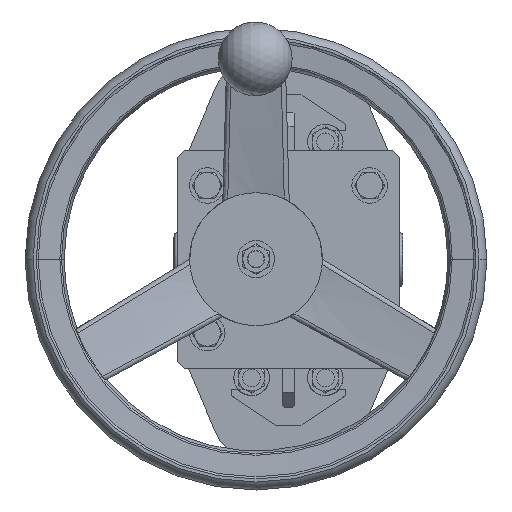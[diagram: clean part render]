
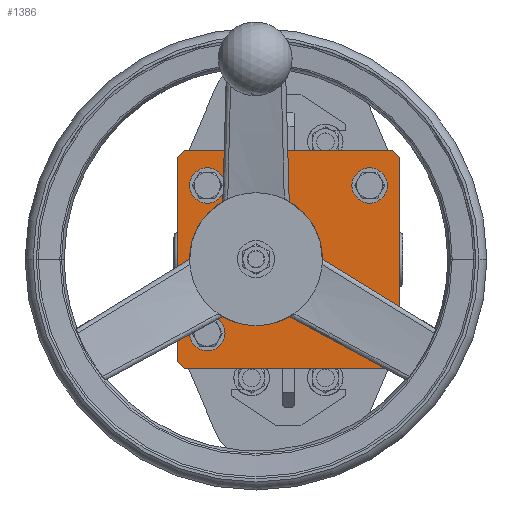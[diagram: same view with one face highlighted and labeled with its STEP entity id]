
A CAD part, top view. The second image highlights one B-rep face of the part: STEP entity #1386.
In plain terms, the highlighted planar face has unit normal (0, 0, 1).
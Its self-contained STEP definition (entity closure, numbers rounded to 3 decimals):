
#1386=ADVANCED_FACE('',(#3273,#3274,#3275,#3276,#3277,#3278),#3279,.T.);
#3273=FACE_BOUND('',#10066,.T.);
#3274=FACE_BOUND('',#10067,.T.);
#3275=FACE_OUTER_BOUND('',#10068,.T.);
#3276=FACE_BOUND('',#10069,.T.);
#3277=FACE_BOUND('',#10070,.T.);
#3278=FACE_BOUND('',#10071,.T.);
#3279=PLANE('',#10072);
#10066=EDGE_LOOP('',(#17700,#17701));
#10067=EDGE_LOOP('',(#17702,#17703,#17704));
#10068=EDGE_LOOP('',(#17705,#17706,#17707,#17708,#17709,#17710,#17711,#17712));
#10069=EDGE_LOOP('',(#17713,#17714,#17715));
#10070=EDGE_LOOP('',(#17716,#17717));
#10071=EDGE_LOOP('',(#17718,#17719));
#10072=AXIS2_PLACEMENT_3D('',#17720,#17721,#17722);
#17700=ORIENTED_EDGE('',*,*,#22521,.T.);
#17701=ORIENTED_EDGE('',*,*,#23958,.T.);
#17702=ORIENTED_EDGE('',*,*,#22431,.F.);
#17703=ORIENTED_EDGE('',*,*,#22430,.F.);
#17704=ORIENTED_EDGE('',*,*,#24166,.F.);
#17705=ORIENTED_EDGE('',*,*,#23562,.T.);
#17706=ORIENTED_EDGE('',*,*,#22910,.T.);
#17707=ORIENTED_EDGE('',*,*,#24083,.T.);
#17708=ORIENTED_EDGE('',*,*,#23215,.T.);
#17709=ORIENTED_EDGE('',*,*,#23223,.T.);
#17710=ORIENTED_EDGE('',*,*,#23473,.T.);
#17711=ORIENTED_EDGE('',*,*,#23219,.T.);
#17712=ORIENTED_EDGE('',*,*,#24167,.T.);
#17713=ORIENTED_EDGE('',*,*,#24168,.F.);
#17714=ORIENTED_EDGE('',*,*,#24169,.F.);
#17715=ORIENTED_EDGE('',*,*,#22249,.F.);
#17716=ORIENTED_EDGE('',*,*,#22397,.T.);
#17717=ORIENTED_EDGE('',*,*,#24170,.T.);
#17718=ORIENTED_EDGE('',*,*,#23268,.F.);
#17719=ORIENTED_EDGE('',*,*,#22782,.F.);
#17720=CARTESIAN_POINT('',(-75.5,-74.,492.9));
#17721=DIRECTION('',(0.,0.,1.));
#17722=DIRECTION('',(1.,0.,0.));
#22249=EDGE_CURVE('',#25322,#25325,#25326,.T.);
#22397=EDGE_CURVE('',#25615,#25612,#25616,.T.);
#22430=EDGE_CURVE('',#25676,#25679,#25680,.T.);
#22431=EDGE_CURVE('',#25679,#25681,#25682,.T.);
#22521=EDGE_CURVE('',#25852,#25849,#25853,.T.);
#22782=EDGE_CURVE('',#26352,#26355,#26356,.T.);
#22910=EDGE_CURVE('',#26599,#26600,#26601,.T.);
#23215=EDGE_CURVE('',#27114,#27115,#27116,.T.);
#23219=EDGE_CURVE('',#27122,#27123,#27124,.T.);
#23223=EDGE_CURVE('',#27115,#27130,#27131,.T.);
#23268=EDGE_CURVE('',#26355,#26352,#27205,.T.);
#23473=EDGE_CURVE('',#27130,#27122,#27524,.T.);
#23562=EDGE_CURVE('',#27662,#26599,#27663,.T.);
#23958=EDGE_CURVE('',#25849,#25852,#28250,.T.);
#24083=EDGE_CURVE('',#26600,#27114,#28426,.T.);
#24166=EDGE_CURVE('',#25681,#25676,#28532,.T.);
#24167=EDGE_CURVE('',#27123,#27662,#28533,.T.);
#24168=EDGE_CURVE('',#28534,#25322,#28535,.T.);
#24169=EDGE_CURVE('',#25325,#28534,#28536,.T.);
#24170=EDGE_CURVE('',#25612,#25615,#28537,.T.);
#25322=VERTEX_POINT('',#30525);
#25325=VERTEX_POINT('',#30529);
#25326=CIRCLE('',#30530,12.);
#25612=VERTEX_POINT('',#30959);
#25615=VERTEX_POINT('',#30963);
#25616=CIRCLE('',#30964,12.);
#25676=VERTEX_POINT('',#31081);
#25679=VERTEX_POINT('',#31085);
#25680=CIRCLE('',#31086,12.);
#25681=VERTEX_POINT('',#31087);
#25682=CIRCLE('',#31088,12.);
#25849=VERTEX_POINT('',#31415);
#25852=VERTEX_POINT('',#31419);
#25853=CIRCLE('',#31420,12.);
#26352=VERTEX_POINT('',#32838);
#26355=VERTEX_POINT('',#32842);
#26356=CIRCLE('',#32843,20.);
#26599=VERTEX_POINT('',#33463);
#26600=VERTEX_POINT('',#33464);
#26601=LINE('',#33465,#33466);
#27114=VERTEX_POINT('',#34777);
#27115=VERTEX_POINT('',#34778);
#27116=LINE('',#34779,#34780);
#27122=VERTEX_POINT('',#34789);
#27123=VERTEX_POINT('',#34790);
#27124=LINE('',#34791,#34792);
#27130=VERTEX_POINT('',#34801);
#27131=LINE('',#34802,#34803);
#27205=CIRCLE('',#35044,20.);
#27524=LINE('',#35843,#35844);
#27662=VERTEX_POINT('',#36160);
#27663=LINE('',#36161,#36162);
#28250=CIRCLE('',#38044,12.);
#28426=LINE('',#38392,#38393);
#28532=CIRCLE('',#38664,12.);
#28533=LINE('',#38665,#38666);
#28534=VERTEX_POINT('',#38667);
#28535=CIRCLE('',#38668,12.);
#28536=CIRCLE('',#38669,12.);
#28537=CIRCLE('',#38670,12.);
#30525=CARTESIAN_POINT('',(-55.,38.,492.9));
#30529=CARTESIAN_POINT('',(-55.,62.,492.9));
#30530=AXIS2_PLACEMENT_3D('',#41342,#41343,#41344);
#30959=CARTESIAN_POINT('',(-55.,-38.,492.9));
#30963=CARTESIAN_POINT('',(-55.,-62.,492.9));
#30964=AXIS2_PLACEMENT_3D('',#41639,#41640,#41641);
#31081=CARTESIAN_POINT('',(55.,-38.,492.9));
#31085=CARTESIAN_POINT('',(43.,-50.,492.9));
#31086=AXIS2_PLACEMENT_3D('',#41696,#41697,#41698);
#31087=CARTESIAN_POINT('',(55.,-62.,492.9));
#31088=AXIS2_PLACEMENT_3D('',#41699,#41700,#41701);
#31415=CARTESIAN_POINT('',(55.,38.,492.9));
#31419=CARTESIAN_POINT('',(55.,62.,492.9));
#31420=AXIS2_PLACEMENT_3D('',#41868,#41869,#41870);
#32838=CARTESIAN_POINT('',(-42.,0.,492.9));
#32842=CARTESIAN_POINT('',(-2.,0.,492.9));
#32843=AXIS2_PLACEMENT_3D('',#42284,#42285,#42286);
#33463=CARTESIAN_POINT('',(75.5,69.,492.9));
#33464=CARTESIAN_POINT('',(70.5,74.,492.9));
#33465=CARTESIAN_POINT('',(71.5,73.,492.9));
#33466=VECTOR('',#42489,1000.);
#34777=CARTESIAN_POINT('',(-70.5,74.,492.9));
#34778=CARTESIAN_POINT('',(-75.5,69.,492.9));
#34779=CARTESIAN_POINT('',(-147.,-2.5,492.9));
#34780=VECTOR('',#42929,1000.);
#34789=CARTESIAN_POINT('',(-70.5,-74.,492.9));
#34790=CARTESIAN_POINT('',(70.5,-74.,492.9));
#34791=CARTESIAN_POINT('',(-75.5,-74.,492.9));
#34792=VECTOR('',#42933,1000.);
#34801=CARTESIAN_POINT('',(-75.5,-69.,492.9));
#34802=CARTESIAN_POINT('',(-75.5,74.,492.9));
#34803=VECTOR('',#42937,1000.);
#35044=AXIS2_PLACEMENT_3D('',#42976,#42977,#42978);
#35843=CARTESIAN_POINT('',(-73.,-71.5,492.9));
#35844=VECTOR('',#43262,1000.);
#36160=CARTESIAN_POINT('',(75.5,-69.,492.9));
#36161=CARTESIAN_POINT('',(75.5,-74.,492.9));
#36162=VECTOR('',#43396,1000.);
#38044=AXIS2_PLACEMENT_3D('',#43954,#43955,#43956);
#38392=CARTESIAN_POINT('',(75.5,74.,492.9));
#38393=VECTOR('',#44144,1000.);
#38664=AXIS2_PLACEMENT_3D('',#44265,#44266,#44267);
#38665=CARTESIAN_POINT('',(-2.5,-147.,492.9));
#38666=VECTOR('',#44268,1000.);
#38667=CARTESIAN_POINT('',(-67.,50.,492.9));
#38668=AXIS2_PLACEMENT_3D('',#44269,#44270,#44271);
#38669=AXIS2_PLACEMENT_3D('',#44272,#44273,#44274);
#38670=AXIS2_PLACEMENT_3D('',#44275,#44276,#44277);
#41342=CARTESIAN_POINT('',(-55.,50.,492.9));
#41343=DIRECTION('',(0.,0.,1.));
#41344=DIRECTION('',(-1.,0.,0.));
#41639=CARTESIAN_POINT('',(-55.,-50.,492.9));
#41640=DIRECTION('',(0.,0.,-1.));
#41641=DIRECTION('',(0.,-1.,0.));
#41696=CARTESIAN_POINT('',(55.,-50.,492.9));
#41697=DIRECTION('',(0.,0.,1.));
#41698=DIRECTION('',(-1.,0.,0.));
#41699=CARTESIAN_POINT('',(55.,-50.,492.9));
#41700=DIRECTION('',(0.,0.,1.));
#41701=DIRECTION('',(-1.,0.,0.));
#41868=CARTESIAN_POINT('',(55.,50.,492.9));
#41869=DIRECTION('',(0.,0.,-1.));
#41870=DIRECTION('',(0.,1.,0.));
#42284=CARTESIAN_POINT('',(-22.,0.,492.9));
#42285=DIRECTION('',(0.,0.,1.));
#42286=DIRECTION('',(1.,0.,0.));
#42489=DIRECTION('',(-0.707,0.707,0.));
#42929=DIRECTION('',(-0.707,-0.707,0.));
#42933=DIRECTION('',(1.,0.,0.));
#42937=DIRECTION('',(0.,-1.,0.));
#42976=CARTESIAN_POINT('',(-22.,0.,492.9));
#42977=DIRECTION('',(0.,0.,1.));
#42978=DIRECTION('',(1.,0.,0.));
#43262=DIRECTION('',(0.707,-0.707,0.));
#43396=DIRECTION('',(0.,1.,0.));
#43954=CARTESIAN_POINT('',(55.,50.,492.9));
#43955=DIRECTION('',(0.,0.,-1.));
#43956=DIRECTION('',(0.,1.,0.));
#44144=DIRECTION('',(-1.,0.,0.));
#44265=CARTESIAN_POINT('',(55.,-50.,492.9));
#44266=DIRECTION('',(0.,0.,1.));
#44267=DIRECTION('',(-1.,0.,0.));
#44268=DIRECTION('',(0.707,0.707,0.));
#44269=CARTESIAN_POINT('',(-55.,50.,492.9));
#44270=DIRECTION('',(0.,0.,1.));
#44271=DIRECTION('',(-1.,0.,0.));
#44272=CARTESIAN_POINT('',(-55.,50.,492.9));
#44273=DIRECTION('',(0.,0.,1.));
#44274=DIRECTION('',(-1.,0.,0.));
#44275=CARTESIAN_POINT('',(-55.,-50.,492.9));
#44276=DIRECTION('',(0.,0.,-1.));
#44277=DIRECTION('',(0.,-1.,0.));
